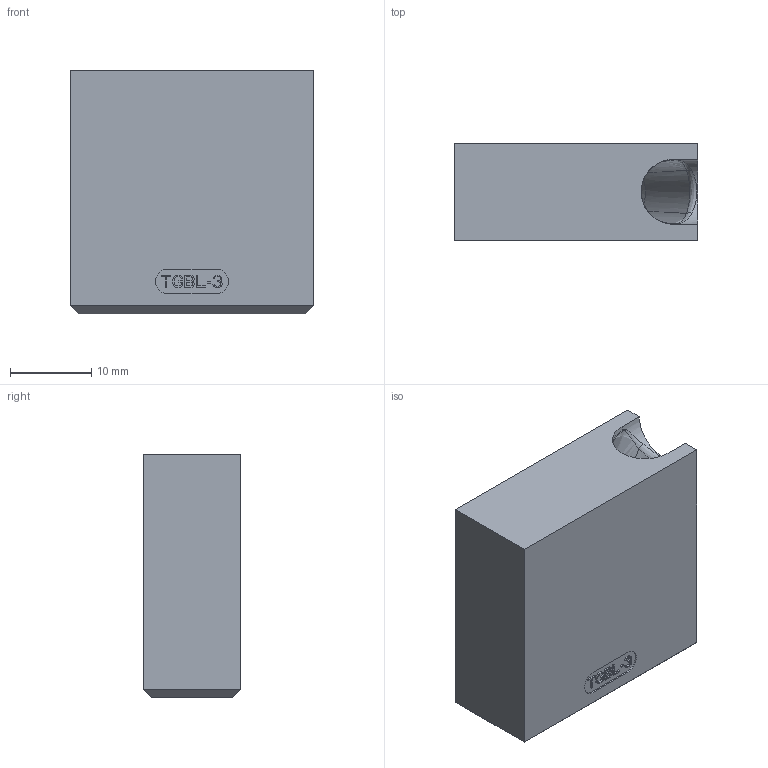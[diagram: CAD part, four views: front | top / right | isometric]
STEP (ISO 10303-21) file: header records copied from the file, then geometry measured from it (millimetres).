
FILE_DESCRIPTION((''),'2;1');
FILE_NAME('TGBL-3','2026-08-12T12:56:02',('gsawatzky'),(''),'CREO PARAMETRIC BY PTC INC, 2021304','CREO PARAMETRIC BY PTC INC, 2021304','');
FILE_SCHEMA(('AUTOMOTIVE_DESIGN { 1 0 10303 214 1 1 1 1 }'));
Length unit declared in the file: millimetre
Products named in the file (1): TGBL-3
Bounding box: 30 x 12 x 30 mm (x, y, z)
Volume: 9255.9 mm3; surface area: 4105.7 mm2
Topology: 1 solids, 1 shells, 250 faces, 681 edges, 438 vertices
Faces by surface type: plane 200, bspline 32, cylinder 7, cone 4, sphere 3, extrusion 2, torus 2
Entity records: 12528 total; most frequent: CARTESIAN_POINT 4332, ORIENTED_EDGE 1348, DIRECTION 1082, PRESENTATION_STYLE_ASSIGNMENT 675, STYLED_ITEM 675, CURVE_STYLE 674, EDGE_CURVE 674, VECTOR 584
